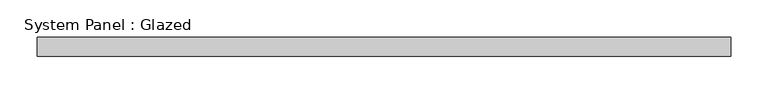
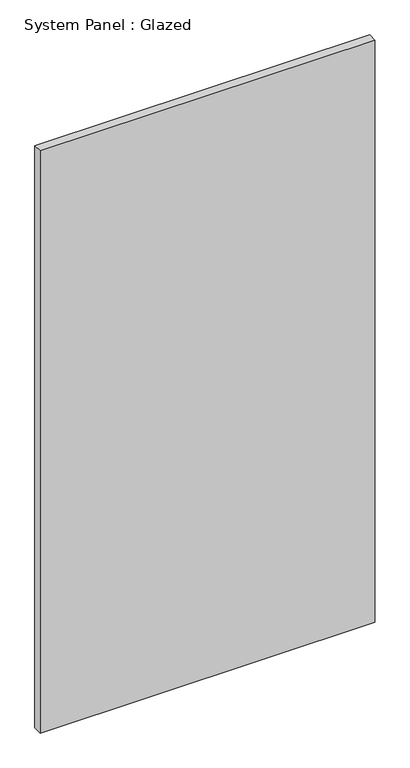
"""IFC4 building model written with IfcOpenShell, lengths in millimetres: plate geometry, System Panel : Glazed."""

import ifcopenshell
import ifcopenshell.guid

model = None  # the IFC model being written
_history = None  # IfcOwnerHistory: only IFC2X3 demands one
_inside = {}  # id of a spatial element -> (the spatial element, [elements in it])
_under = {}  # id of a project, library or spatial element -> (it, [spatial elements below it])
_declared = {}  # id of a project -> (the project, [libraries it declares])
_typed = {}  # id of a type object -> (the type object, [elements of that type])
_made_of = {}  # id of a material, layer set ... -> (it, [elements and type objects made of it])


def new_model(schema):
    """Start an empty IFC model of exactly this schema.

    Asked for "IFC4X3", IfcOpenShell would pick the latest addendum, in which some entities
    have other attributes; the version numbers below select the first issue.
    IFC2X3 requires an IfcOwnerHistory on every rooted entity: one is made here for all.
    """
    global model, _history
    if schema == "IFC4X3":
        model = ifcopenshell.file(schema_version=(4, 3, 0, 0))
    else:
        model = ifcopenshell.file(schema=schema)
    _inside.clear()
    _under.clear()
    _declared.clear()
    _typed.clear()
    _made_of.clear()
    _history = None
    if model.schema == "IFC2X3":
        org = make("IfcOrganization", Name="unknown")
        user = make(
            "IfcPersonAndOrganization",
            ThePerson=make("IfcPerson", FamilyName="unknown"),
            TheOrganization=org,
        )
        app = make(
            "IfcApplication",
            ApplicationDeveloper=org,
            Version="unknown",
            ApplicationFullName="unknown",
            ApplicationIdentifier="unknown",
        )
        _history = make(
            "IfcOwnerHistory",
            OwningUser=user,
            OwningApplication=app,
            ChangeAction="ADDED",
            CreationDate=0,
        )
    return model


def make(cls, **values):
    """One entity of the class cls with the attributes given. An attribute that is None is left unset."""
    return model.create_entity(
        cls, **{name: value for name, value in values.items() if value is not None}
    )


def rooted(cls, **values):
    """An entity with a GlobalId (a new one), such as an element, a storey or a relation."""
    return make(cls, GlobalId=ifcopenshell.guid.new(), OwnerHistory=_history, **values)


def si_unit(unit_type, name, prefix=None):
    """IfcSIUnit, for example si_unit("LENGTHUNIT", "METRE", prefix="MILLI")."""
    return make("IfcSIUnit", UnitType=unit_type, Prefix=prefix, Name=name)


def assignment(units):
    """IfcUnitAssignment: the units of a project."""
    return None if units is None else make("IfcUnitAssignment", Units=units)


def point(xyz):
    """IfcCartesianPoint."""
    return None if xyz is None else make("IfcCartesianPoint", Coordinates=xyz)


def direction(xyz):
    """IfcDirection."""
    return None if xyz is None else make("IfcDirection", DirectionRatios=xyz)


def frame(location, z_axis=None, x_axis=None):
    """IfcAxis2Placement3D, a coordinate frame: its origin and axes. An axis left out is left unset."""
    return make(
        "IfcAxis2Placement3D",
        Location=point(location),
        Axis=direction(z_axis),
        RefDirection=direction(x_axis),
    )


def origin():
    """The frame at (0, 0, 0) with its axes left unset."""
    return frame((0.0, 0.0, 0.0))


def origin_with_axes():
    """The frame at (0, 0, 0) with the z axis (0, 0, 1) and the x axis (1, 0, 0) written out."""
    return frame((0.0, 0.0, 0.0), z_axis=(0.0, 0.0, 1.0), x_axis=(1.0, 0.0, 0.0))


def place(relative_to, where):
    """IfcLocalPlacement: puts the frame where relative to a parent placement (None: the world)."""
    return make(
        "IfcLocalPlacement", PlacementRelTo=relative_to, RelativePlacement=where
    )


def context(
    kind, dimensions, precision=None, world=None, true_north=None, identifier=None
):
    """IfcGeometricRepresentationContext, for example the 3D "Model" context."""
    return make(
        "IfcGeometricRepresentationContext",
        ContextIdentifier=identifier,
        ContextType=kind,
        CoordinateSpaceDimension=dimensions,
        Precision=precision,
        WorldCoordinateSystem=world,
        TrueNorth=true_north,
    )


def project(units=None, contexts=None):
    """IfcProject with its units and contexts."""
    return rooted(
        "IfcProject",
        Name="project",
        RepresentationContexts=contexts,
        UnitsInContext=assignment(units),
    )


def spatial(cls, under=None, at=None, **own):
    """A site, building, storey or space (cls), placed at a placement, below another one or the project."""
    s = rooted(cls, ObjectPlacement=at, **own)
    if under is not None:
        _under.setdefault(under.id(), (under, []))[1].append(s)
    return s


def polyline(points):
    """IfcPolyline through the points."""
    return make("IfcPolyline", Points=[point(p) for p in points])


def outline(outer, holes=None, kind="AREA"):
    """IfcArbitraryClosedProfileDef: a profile drawn as a closed curve; with holes, ...WithVoids."""
    if holes is None:
        return make("IfcArbitraryClosedProfileDef", ProfileType=kind, OuterCurve=outer)
    return make(
        "IfcArbitraryProfileDefWithVoids",
        ProfileType=kind,
        OuterCurve=outer,
        InnerCurves=holes,
    )


def extrude(swept, where, along, depth):
    """IfcExtrudedAreaSolid: the profile swept, set in the frame where, extruded along a direction by depth."""
    return make(
        "IfcExtrudedAreaSolid",
        SweptArea=swept,
        Position=where,
        ExtrudedDirection=direction(along),
        Depth=depth,
    )


def shape(context_of_items, identifier, shape_type, items):
    """IfcShapeRepresentation: the items that make up one representation, for example the "Body"."""
    return make(
        "IfcShapeRepresentation",
        ContextOfItems=context_of_items,
        RepresentationIdentifier=identifier,
        RepresentationType=shape_type,
        Items=items,
    )


def source(mapping_origin, context_of_items, identifier, shape_type, items):
    """IfcRepresentationMap: a shape defined once, which mapped items show again and again."""
    return make(
        "IfcRepresentationMap",
        MappingOrigin=mapping_origin,
        MappedRepresentation=shape(context_of_items, identifier, shape_type, items),
    )


def transform(
    local_origin,
    x_axis=None,
    y_axis=None,
    z_axis=None,
    scale=None,
    scale2=None,
    scale3=None,
    uniform=True,
):
    """IfcCartesianTransformationOperator3D, or its non-uniform kind. x_axis, y_axis, z_axis: its Axis1, 2, 3."""
    if uniform:
        return make(
            "IfcCartesianTransformationOperator3D",
            Axis1=direction(x_axis),
            Axis2=direction(y_axis),
            LocalOrigin=point(local_origin),
            Scale=scale,
            Axis3=direction(z_axis),
        )
    return make(
        "IfcCartesianTransformationOperator3DnonUniform",
        Axis1=direction(x_axis),
        Axis2=direction(y_axis),
        LocalOrigin=point(local_origin),
        Scale=scale,
        Axis3=direction(z_axis),
        Scale2=scale2,
        Scale3=scale3,
    )


def mapped(mapping_source, mapping_target):
    """IfcMappedItem: shows the shape of a source again, moved by a transform."""
    return make(
        "IfcMappedItem", MappingSource=mapping_source, MappingTarget=mapping_target
    )


def made_of(thing, what):
    """Note that an element or type object is made of a material, layer set ...; save() writes the relation."""
    if what is not None:
        _made_of.setdefault(what.id(), (what, []))[1].append(thing)
    return thing


def element(
    cls,
    number,
    at=None,
    inside=None,
    cuts=None,
    type_object=None,
    material=None,
    context=None,
    identifier="Body",
    shape_type=None,
    held_by="IfcProductDefinitionShape",
    body=None,
    shapes=None,
    **own,
):
    """One element of the class cls, such as IfcWall. Its Tag is "e" and its number.

    at: its placement. inside: the storey or other place that contains it. cuts: it is an
    opening in that element (IfcRelVoidsElement). A single representation is given by context,
    identifier, shape_type and body (its items); several are given by shapes. held_by: the class
    of the entity that holds the representations. save() writes the other relations.
    """
    e = rooted(cls, Tag="e%d" % number, ObjectPlacement=at, **own)
    if body is not None:
        shapes = [shape(context, identifier, shape_type, body)]
    if shapes is not None:
        e.Representation = make(held_by, Representations=shapes)
    if inside is not None:
        _inside.setdefault(inside.id(), (inside, []))[1].append(e)
    if cuts is not None:
        rooted(
            "IfcRelVoidsElement", RelatingBuildingElement=cuts, RelatedOpeningElement=e
        )
    if type_object is not None:
        _typed.setdefault(type_object.id(), (type_object, []))[1].append(e)
    return made_of(e, material)


def aggregate(whole, parts):
    """IfcRelAggregates: a whole, such as a stair, and the parts it consists of."""
    return rooted("IfcRelAggregates", RelatingObject=whole, RelatedObjects=parts)


def save(model, path):
    """Write the relations noted so far, then the file.

    IfcRelAggregates (storeys below a building ...), IfcRelContainedInSpatialStructure (elements
    in a storey), IfcRelDefinesByType, IfcRelAssociatesMaterial and IfcRelDeclares: one each for
    every whole, place, type object, material and project.
    """
    for whole, parts in _under.values():
        aggregate(whole, parts)
    for where, things in _inside.values():
        rooted(
            "IfcRelContainedInSpatialStructure",
            RelatedElements=things,
            RelatingStructure=where,
        )
    for kind, things in _typed.values():
        rooted("IfcRelDefinesByType", RelatedObjects=things, RelatingType=kind)
    for what, things in _made_of.values():
        rooted("IfcRelAssociatesMaterial", RelatedObjects=things, RelatingMaterial=what)
    for by, libraries in _declared.values():
        rooted("IfcRelDeclares", RelatingContext=by, RelatedDefinitions=libraries)
    model.write(path)


def system_panel_glazed_44af1e34(model_context):
    return source(origin(), model_context, "Body", "SweptSolid", [
        extrude(outline(polyline([(462.5, 24.5), (-462.5, 24.5), (-462.5, 49.5), (462.5, 49.5), (462.5, 24.5)])), origin_with_axes(), (0.0, 0.0, 1.0), 1700.0),
    ])


if __name__ == "__main__":
    model = new_model("IFC4")
    model_context = context("Model", 3, world=origin())
    ifc_project = project(units=[si_unit("LENGTHUNIT", "METRE", prefix="MILLI")], contexts=[model_context])
    site = spatial("IfcSite", under=ifc_project)
    building = spatial("IfcBuilding", under=site)
    placement = place(None, origin())
    system_panel_glazed_shape = system_panel_glazed_44af1e34(model_context)
    element("IfcPlate", 1, ObjectType="System Panel : Glazed", at=placement, inside=building, context=model_context, shape_type="MappedRepresentation", body=[
        mapped(system_panel_glazed_shape, transform((0.0, 0.0, 0.0), x_axis=(1.0, 0.0, 0.0), y_axis=(0.0, 1.0, 0.0), z_axis=(0.0, 0.0, 1.0))),
    ])
    save(model, "model.ifc")
